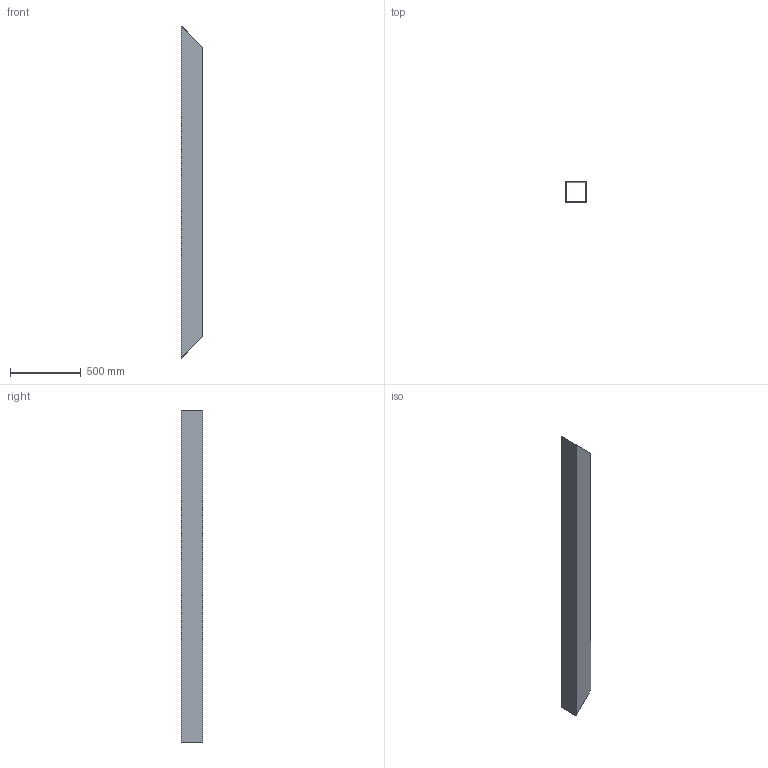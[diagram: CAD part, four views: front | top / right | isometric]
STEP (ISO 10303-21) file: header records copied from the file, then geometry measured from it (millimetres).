
FILE_DESCRIPTION(('Open CASCADE Model'),'2;1');
FILE_NAME('Open CASCADE Shape Model','2026-10-15T15:10:03',('Author'),( 'Open CASCADE'),'Open CASCADE STEP processor 8.0','Open CASCADE 8.0' ,'Unknown');
FILE_SCHEMA(('AUTOMOTIVE_DESIGN { 1 0 10303 214 1 1 1 1 }'));
Length unit declared in the file: millimetre
Products named in the file (1): SHS150x150x6_L2200000_CUTda1945_P05 5
Bounding box: 150 x 150 x 2350 mm (x, y, z)
Volume: 7603200 mm3; surface area: 2544175 mm2
Topology: 1 solids, 1 shells, 10 faces, 24 edges, 16 vertices
Faces by surface type: plane 10
Entity records: 586 total; most frequent: CARTESIAN_POINT 127, DIRECTION 66, ORIENTED_EDGE 48, PCURVE 48, DEFINITIONAL_REPRESENTATION 48, LINE 44, VECTOR 44, B_SPLINE_CURVE_WITH_KNOTS 28
